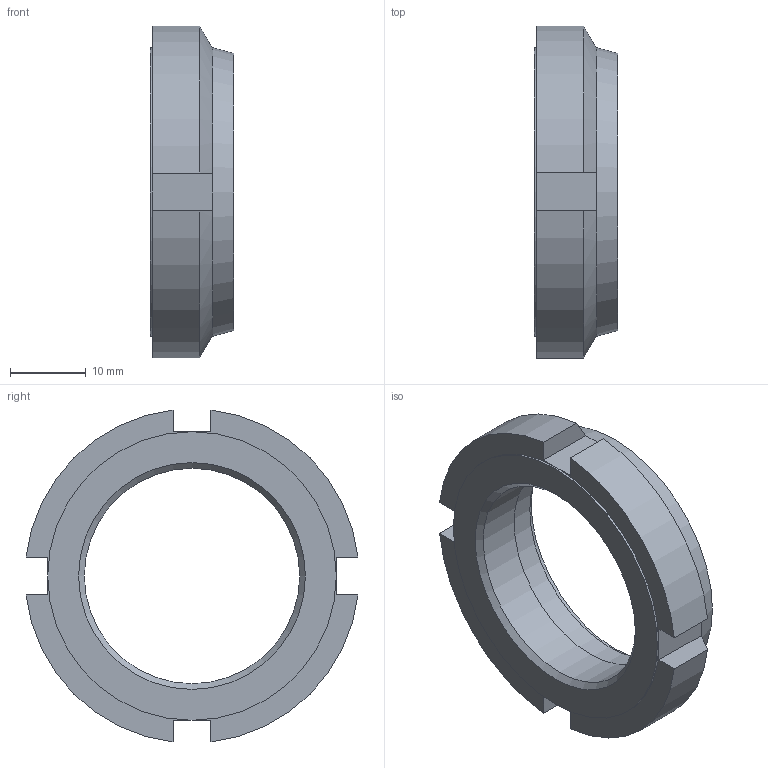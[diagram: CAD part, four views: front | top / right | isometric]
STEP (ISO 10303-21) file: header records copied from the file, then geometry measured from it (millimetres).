
FILE_DESCRIPTION( ( 'STEP AP203' ), '1' );
FILE_NAME( 'C:/Temp/Ganter_Step_05_03_2020/data/3_2/gn1804_1/Slotted locknut self-locking GN 1804.1-M30x1,5.stp', '2020-03-13T05:25:16', ( 'License CC BY-ND 4.0' ), ( 'CADENAS' ), ' ', 'PARTsolutions', ' ' );
FILE_SCHEMA( ( 'CONFIG_CONTROL_DESIGN' ) );
Length unit declared in the file: millimetre
Products named in the file (1): _Slotted locknut self-locking GN 1804.1-M30x1,5
Bounding box: 11 x 43.72 x 43.72 mm (x, y, z)
Volume: 7377 mm3; surface area: 4007.4 mm2
Topology: 1 solids, 1 shells, 34 faces, 79 edges, 49 vertices
Faces by surface type: plane 20, cylinder 8, cone 6
Full cylindrical faces by diameter (mm): 28.376 x1, 29.5 x1, 31 x1, 38 x1
Entity records: 994 total; most frequent: CARTESIAN_POINT 205, DIRECTION 152, ORIENTED_EDGE 146, EDGE_CURVE 73, AXIS2_PLACEMENT_3D 60, VERTEX_POINT 49, EDGE_LOOP 44, FACE_OUTER_BOUND 38
